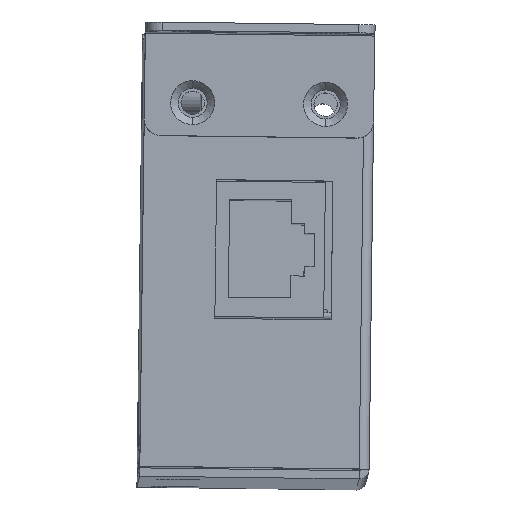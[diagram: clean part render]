
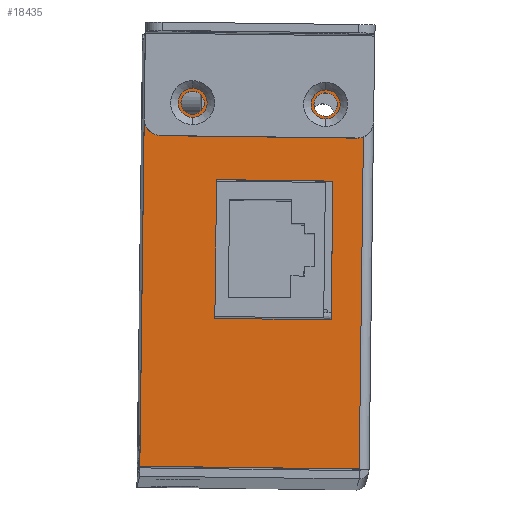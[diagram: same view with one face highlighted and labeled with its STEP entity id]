
A CAD part, left-side view. The second image highlights one B-rep face of the part: STEP entity #18435.
In plain terms, the highlighted planar face has unit normal (-1, -0.004, 0.014).
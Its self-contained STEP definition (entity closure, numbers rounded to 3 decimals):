
#192 = ORIENTED_EDGE ( 'NONE', *, *, #20463, .F. ) ;
#673 = EDGE_LOOP ( 'NONE', ( #192, #18230, #5575, #22401, #20503 ) ) ;
#991 = VECTOR ( 'NONE', #8473, 1000. ) ;
#1494 = VECTOR ( 'NONE', #26370, 1000. ) ;
#1824 = VECTOR ( 'NONE', #5812, 1000. ) ;
#2176 = DIRECTION ( 'NONE',  ( 0.003, -1., -0.013 ) ) ;
#2615 = CARTESIAN_POINT ( 'NONE',  ( -61.846, 5.639, 18.78 ) ) ;
#3341 = AXIS2_PLACEMENT_3D ( 'NONE', #4004, #23184, #2176 ) ;
#3469 = DIRECTION ( 'NONE',  ( -0.003, 1., 0.013 ) ) ;
#3474 = ORIENTED_EDGE ( 'NONE', *, *, #10494, .T. ) ;
#3741 = VERTEX_POINT ( 'NONE', #11084 ) ;
#3806 = LINE ( 'NONE', #3902, #13022 ) ;
#3882 = DIRECTION ( 'NONE',  ( -0.003, 1., 0.013 ) ) ;
#3902 = CARTESIAN_POINT ( 'NONE',  ( -62.148, -12.432, -7.348 ) ) ;
#4004 = CARTESIAN_POINT ( 'NONE',  ( -61.645, -16.672, 27.498 ) ) ;
#4418 = EDGE_CURVE ( 'NONE', #26797, #14288, #6610, .T. ) ;
#4794 = VERTEX_POINT ( 'NONE', #15983 ) ;
#4980 = EDGE_LOOP ( 'NONE', ( #26119, #25936 ) ) ;
#5152 = CARTESIAN_POINT ( 'NONE',  ( -62.475, 10.591, -24.956 ) ) ;
#5290 = VERTEX_POINT ( 'NONE', #10694 ) ;
#5403 = VERTEX_POINT ( 'NONE', #25579 ) ;
#5464 = DIRECTION ( 'NONE',  ( 0.003, -1., -0.013 ) ) ;
#5501 = CARTESIAN_POINT ( 'NONE',  ( -61.646, -16.472, 27.5 ) ) ;
#5575 = ORIENTED_EDGE ( 'NONE', *, *, #19081, .F. ) ;
#5613 = DIRECTION ( 'NONE',  ( -0.014, 0.013, -1. ) ) ;
#5812 = DIRECTION ( 'NONE',  ( 0.014, -0.013, 1. ) ) ;
#6149 = CARTESIAN_POINT ( 'NONE',  ( -61.914, -12.643, 9.349 ) ) ;
#6196 = DIRECTION ( 'NONE',  ( 1., 0.004, -0.014 ) ) ;
#6318 = LINE ( 'NONE', #18078, #15514 ) ;
#6401 = CARTESIAN_POINT ( 'NONE',  ( -61.836, 2.84, 18.745 ) ) ;
#6610 = LINE ( 'NONE', #10666, #991 ) ;
#6627 = DIRECTION ( 'NONE',  ( -0.003, 1., 0.013 ) ) ;
#6669 = FACE_BOUND ( 'NONE', #14671, .T. ) ;
#7599 = CARTESIAN_POINT ( 'NONE',  ( -61.727, 7.926, 27.809 ) ) ;
#7628 = DIRECTION ( 'NONE',  ( 1., 0.004, -0.014 ) ) ;
#7749 = AXIS2_PLACEMENT_3D ( 'NONE', #16641, #12487, #6627 ) ;
#8034 = CARTESIAN_POINT ( 'NONE',  ( -62.195, 1.566, -7.171 ) ) ;
#8146 = CARTESIAN_POINT ( 'NONE',  ( -62.475, 10.591, -24.956 ) ) ;
#8214 = EDGE_CURVE ( 'NONE', #20624, #16578, #27200, .T. ) ;
#8473 = DIRECTION ( 'NONE',  ( 0.014, -0.013, 1. ) ) ;
#8920 = DIRECTION ( 'NONE',  ( 1., 0.004, -0.014 ) ) ;
#8994 = EDGE_CURVE ( 'NONE', #24477, #5403, #13331, .T. ) ;
#9070 = CIRCLE ( 'NONE', #9707, 1.4 ) ;
#9707 = AXIS2_PLACEMENT_3D ( 'NONE', #19346, #8920, #25650 ) ;
#10027 = CARTESIAN_POINT ( 'NONE',  ( -61.646, -16.472, 27.5 ) ) ;
#10151 = AXIS2_PLACEMENT_3D ( 'NONE', #14557, #6196, #3882 ) ;
#10252 = LINE ( 'NONE', #22588, #22453 ) ;
#10279 = FACE_BOUND ( 'NONE', #4980, .T. ) ;
#10494 = EDGE_CURVE ( 'NONE', #5403, #5290, #18625, .T. ) ;
#10666 = CARTESIAN_POINT ( 'NONE',  ( -61.734, 9.925, 27.835 ) ) ;
#10689 = CARTESIAN_POINT ( 'NONE',  ( -62.388, -15.806, -25.29 ) ) ;
#10694 = CARTESIAN_POINT ( 'NONE',  ( -61.96, 1.356, 9.526 ) ) ;
#11084 = CARTESIAN_POINT ( 'NONE',  ( -61.792, -10.359, 18.578 ) ) ;
#11467 = VERTEX_POINT ( 'NONE', #6149 ) ;
#11468 = CARTESIAN_POINT ( 'NONE',  ( -62.148, -12.432, -7.348 ) ) ;
#12487 = DIRECTION ( 'NONE',  ( 1., 0.004, -0.014 ) ) ;
#12886 = DIRECTION ( 'NONE',  ( 1., 0.004, -0.014 ) ) ;
#13022 = VECTOR ( 'NONE', #18464, 1000. ) ;
#13331 = LINE ( 'NONE', #26095, #1494 ) ;
#13566 = FACE_OUTER_BOUND ( 'NONE', #673, .T. ) ;
#13656 = EDGE_CURVE ( 'NONE', #5290, #11467, #6318, .T. ) ;
#13680 = CARTESIAN_POINT ( 'NONE',  ( -61.841, 4.239, 18.763 ) ) ;
#13925 = ORIENTED_EDGE ( 'NONE', *, *, #13656, .T. ) ;
#14288 = VERTEX_POINT ( 'NONE', #19759 ) ;
#14500 = EDGE_CURVE ( 'NONE', #4794, #3741, #19446, .T. ) ;
#14557 = CARTESIAN_POINT ( 'NONE',  ( -61.788, -11.759, 18.56 ) ) ;
#14671 = EDGE_LOOP ( 'NONE', ( #13925, #16799, #15258, #3474 ) ) ;
#15217 = EDGE_LOOP ( 'NONE', ( #15938, #19997 ) ) ;
#15258 = ORIENTED_EDGE ( 'NONE', *, *, #8994, .T. ) ;
#15514 = VECTOR ( 'NONE', #5464, 1000. ) ;
#15751 = CIRCLE ( 'NONE', #26351, 1.4 ) ;
#15897 = CIRCLE ( 'NONE', #7749, 2. ) ;
#15938 = ORIENTED_EDGE ( 'NONE', *, *, #20226, .T. ) ;
#15983 = CARTESIAN_POINT ( 'NONE',  ( -61.783, -13.159, 18.542 ) ) ;
#16578 = VERTEX_POINT ( 'NONE', #10689 ) ;
#16633 = PLANE ( 'NONE',  #3341 ) ;
#16641 = CARTESIAN_POINT ( 'NONE',  ( -61.755, 7.951, 25.81 ) ) ;
#16799 = ORIENTED_EDGE ( 'NONE', *, *, #26143, .T. ) ;
#16976 = EDGE_CURVE ( 'NONE', #14288, #19210, #15897, .T. ) ;
#17874 = DIRECTION ( 'NONE',  ( -0.003, 1., 0.013 ) ) ;
#18004 = VERTEX_POINT ( 'NONE', #2615 ) ;
#18078 = CARTESIAN_POINT ( 'NONE',  ( -61.96, 1.356, 9.526 ) ) ;
#18230 = ORIENTED_EDGE ( 'NONE', *, *, #8214, .F. ) ;
#18435 = ADVANCED_FACE ( 'NONE', ( #13566, #6669, #10279, #25419 ), #16633, .T. ) ;
#18464 = DIRECTION ( 'NONE',  ( -0.014, 0.013, -1. ) ) ;
#18625 = LINE ( 'NONE', #8034, #1824 ) ;
#18965 = VECTOR ( 'NONE', #17874, 1000. ) ;
#19081 = EDGE_CURVE ( 'NONE', #19210, #20624, #10252, .T. ) ;
#19210 = VERTEX_POINT ( 'NONE', #7599 ) ;
#19346 = CARTESIAN_POINT ( 'NONE',  ( -61.788, -11.759, 18.56 ) ) ;
#19446 = CIRCLE ( 'NONE', #10151, 1.4 ) ;
#19759 = CARTESIAN_POINT ( 'NONE',  ( -61.762, 9.951, 25.835 ) ) ;
#19997 = ORIENTED_EDGE ( 'NONE', *, *, #14500, .T. ) ;
#20226 = EDGE_CURVE ( 'NONE', #3741, #4794, #9070, .T. ) ;
#20463 = EDGE_CURVE ( 'NONE', #16578, #26797, #21915, .T. ) ;
#20503 = ORIENTED_EDGE ( 'NONE', *, *, #4418, .F. ) ;
#20624 = VERTEX_POINT ( 'NONE', #5501 ) ;
#20709 = EDGE_CURVE ( 'NONE', #26294, #18004, #24522, .T. ) ;
#21116 = DIRECTION ( 'NONE',  ( -0.003, 1., 0.013 ) ) ;
#21390 = AXIS2_PLACEMENT_3D ( 'NONE', #13680, #7628, #3469 ) ;
#21915 = LINE ( 'NONE', #5152, #18965 ) ;
#22401 = ORIENTED_EDGE ( 'NONE', *, *, #16976, .F. ) ;
#22453 = VECTOR ( 'NONE', #26693, 1000. ) ;
#22588 = CARTESIAN_POINT ( 'NONE',  ( -61.645, -16.672, 27.498 ) ) ;
#23184 = DIRECTION ( 'NONE',  ( -1., -0.004, 0.014 ) ) ;
#24477 = VERTEX_POINT ( 'NONE', #11468 ) ;
#24522 = CIRCLE ( 'NONE', #21390, 1.4 ) ;
#25419 = FACE_BOUND ( 'NONE', #15217, .T. ) ;
#25579 = CARTESIAN_POINT ( 'NONE',  ( -62.195, 1.566, -7.171 ) ) ;
#25650 = DIRECTION ( 'NONE',  ( -0.003, 1., 0.013 ) ) ;
#25874 = VECTOR ( 'NONE', #5613, 1000. ) ;
#25936 = ORIENTED_EDGE ( 'NONE', *, *, #20709, .T. ) ;
#26095 = CARTESIAN_POINT ( 'NONE',  ( -62.195, 1.566, -7.171 ) ) ;
#26119 = ORIENTED_EDGE ( 'NONE', *, *, #26959, .T. ) ;
#26143 = EDGE_CURVE ( 'NONE', #11467, #24477, #3806, .T. ) ;
#26294 = VERTEX_POINT ( 'NONE', #6401 ) ;
#26351 = AXIS2_PLACEMENT_3D ( 'NONE', #27253, #12886, #21116 ) ;
#26370 = DIRECTION ( 'NONE',  ( -0.003, 1., 0.013 ) ) ;
#26693 = DIRECTION ( 'NONE',  ( 0.003, -1., -0.013 ) ) ;
#26797 = VERTEX_POINT ( 'NONE', #8146 ) ;
#26959 = EDGE_CURVE ( 'NONE', #18004, #26294, #15751, .T. ) ;
#27200 = LINE ( 'NONE', #10027, #25874 ) ;
#27253 = CARTESIAN_POINT ( 'NONE',  ( -61.841, 4.239, 18.763 ) ) ;
